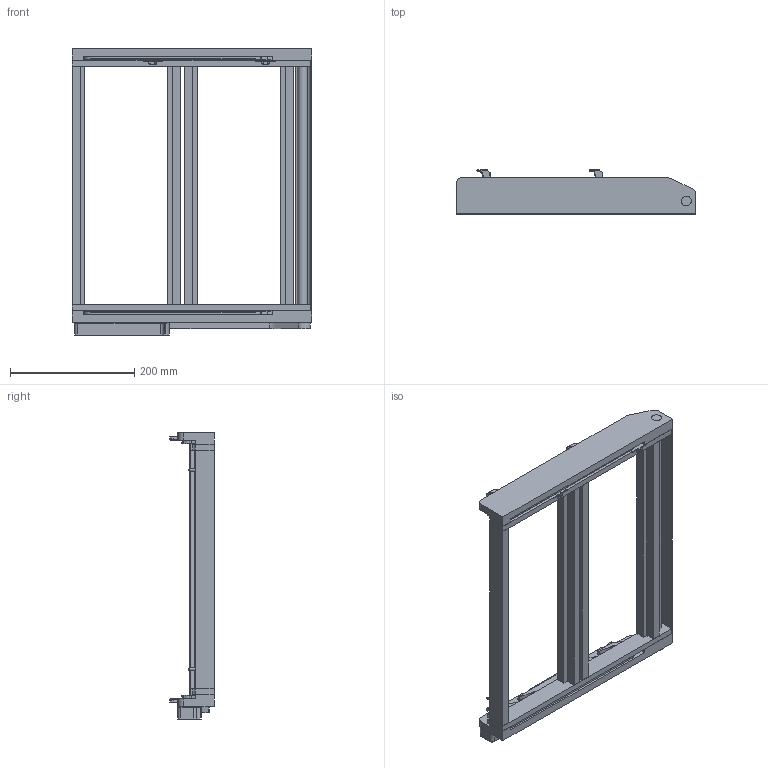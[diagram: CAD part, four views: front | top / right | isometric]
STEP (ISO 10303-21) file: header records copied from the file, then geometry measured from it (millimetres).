
FILE_DESCRIPTION((''),'2;1');
FILE_NAME('C:\old_Drawings\shrinkwrapped website .stp files\561346-STP.stp','2012-03-26T08:47:40',('GaryRobinson'),(''),'Autodesk Inventor 2011','Autodesk Inventor 2011','');
FILE_SCHEMA(('AUTOMOTIVE_DESIGN { 1 0 10303 214 1 1 1 1 }'));
Length unit declared in the file: inch
Products named in the file (1): 561346-STP
Bounding box: 385.78 x 71.44 x 462.25 mm (x, y, z)
Surface area: 477908.9 mm2 (no closed solid volume)
Topology: 0 solids, 40 shells, 381 faces, 1406 edges, 1033 vertices
Faces by surface type: plane 251, cylinder 117, cone 9, torus 4
Full cylindrical faces by diameter (mm): 3.988 x4, 15.875 x1, 22.352 x2
Entity records: 15117 total; most frequent: CARTESIAN_POINT 2975, DIRECTION 2527, ORIENTED_EDGE 2019, EDGE_CURVE 1391, VERTEX_POINT 1029, VECTOR 987, LINE 987, AXIS2_PLACEMENT_3D 770
